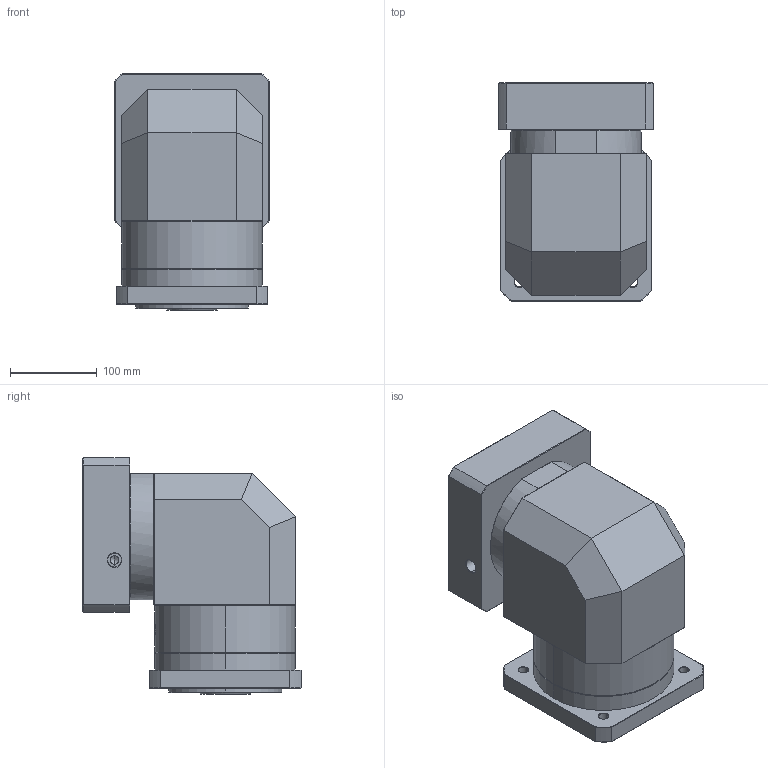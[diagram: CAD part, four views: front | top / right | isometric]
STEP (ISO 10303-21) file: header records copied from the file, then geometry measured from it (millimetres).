
FILE_DESCRIPTION (( 'STEP AP214' ), '1' );
FILE_NAME ('ZFR160A-K35-L1-P2-32-150-185-M10.step', '2023-09-03T09:01:09', ( '' ), ( '' ), 'SwSTEP 2.0', 'SolidWorks 2016', '' );
FILE_SCHEMA (( 'AUTOMOTIVE_DESIGN' ));
Length unit declared in the file: millimetre
Products named in the file (1): ZFR160A-K35-L1-P2-32-150-185-M10
Bounding box: 178 x 251.5 x 272.7 mm (x, y, z)
Volume: 6991465.2 mm3; surface area: 463960 mm2
Topology: 6 solids, 6 shells, 2144 faces, 5659 edges, 3622 vertices
Faces by surface type: plane 1039, bspline 407, cylinder 377, cone 301, torus 20
Entity records: 119801 total; most frequent: CARTESIAN_POINT 48370, ORIENTED_EDGE 11262, DIRECTION 8147, EDGE_CURVE 5631, VERTEX_POINT 3622, LINE 3027, VECTOR 3027, AXIS2_PLACEMENT_3D 2560
